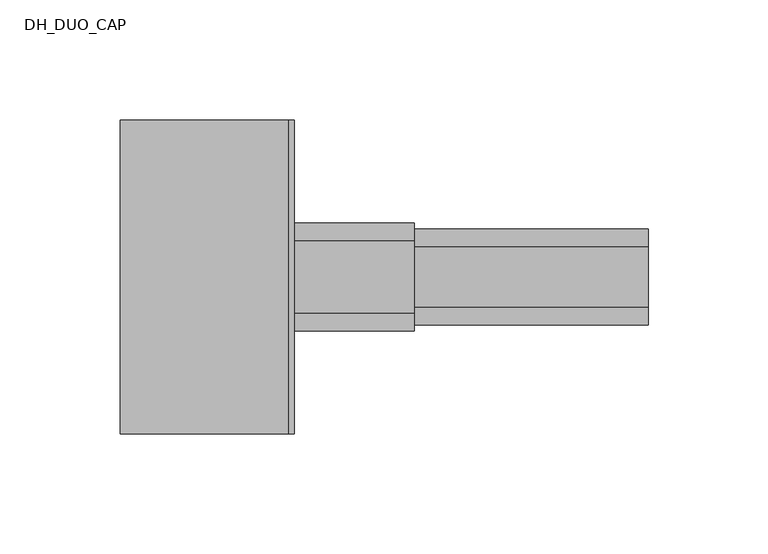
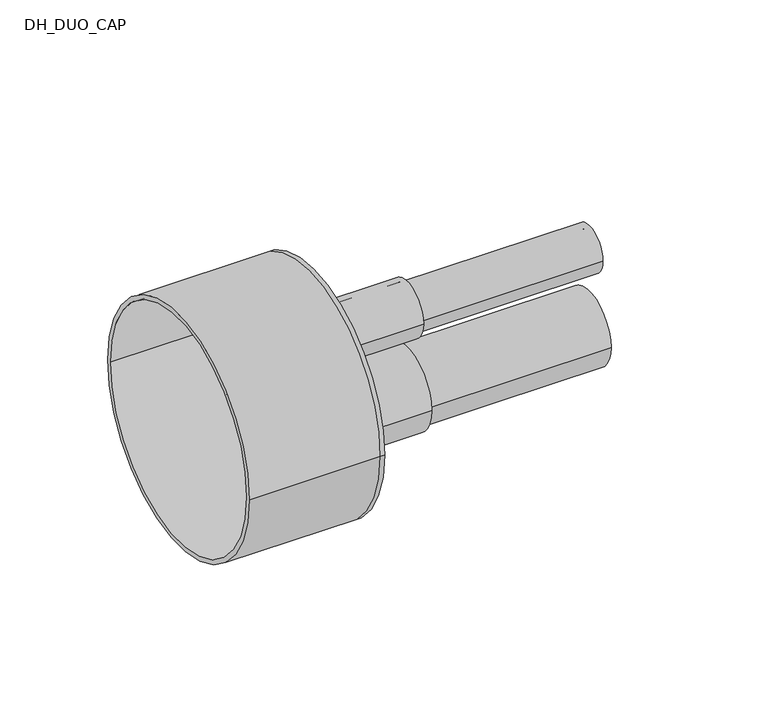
"""IFC4 building model written with IfcOpenShell, lengths in millimetres: pipe fitting geometry, DH_DUO_CAP : RAUTHERMEX DUO 7.4 DW - Rubber Cap."""

from ifc_helpers import new_model, si_unit, point, frame, frame_2d, origin, place, context, project, spatial, polyline, circle_curve, trimmed, segment, composite_curve, outline, extrude, source, transform, mapped, element, save
from ifc_brep_helpers import plane_surface, cylinder_surface, revolved_surface, advanced_brep


def dh_duo_cap_34895898(model_context):
    return source(origin(), model_context, "Body", "SolidModel", [
        extrude(outline(composite_curve([segment(trimmed(circle_curve(frame_2d((0.0, -18.5)), 20.0), [point((-20.0, -18.5))], [point((20.0, -18.5))], False, "CARTESIAN"), True, "CONTINUOUS"), segment(trimmed(circle_curve(frame_2d((0.0, -18.5)), 20.0), [point((20.0, -18.5))], [point((-20.0, -18.5))], False, "CARTESIAN"), True, "CONTINUOUS")], self_intersect=False), holes=[composite_curve([segment(trimmed(circle_curve(frame_2d((0.0, -18.5)), 14.5), [point((-14.5, -18.5))], [point((14.5, -18.5))], True, "CARTESIAN"), True, "CONTINUOUS"), segment(trimmed(circle_curve(frame_2d((0.0, -18.5)), 14.5), [point((14.5, -18.5))], [point((-14.5, -18.5))], True, "CARTESIAN"), True, "CONTINUOUS")], self_intersect=False)]), frame((0.0, 0.0, 0.0), z_axis=(1.0, 0.0, 0.0), x_axis=(0.0, 1.0, 0.0)), (0.0, 0.0, 1.0), 150.0),
        extrude(outline(composite_curve([segment(trimmed(circle_curve(frame_2d((0.0, 26.0)), 12.5), [point((-12.5, 26.0))], [point((12.5, 26.0))], False, "CARTESIAN"), True, "CONTINUOUS"), segment(trimmed(circle_curve(frame_2d((0.0, 26.0)), 12.5), [point((12.5, 26.0))], [point((-12.5, 26.0))], False, "CARTESIAN"), True, "CONTINUOUS")], self_intersect=False), holes=[composite_curve([segment(trimmed(circle_curve(frame_2d((0.0, 26.0)), 9.0), [point((-9.0, 26.0))], [point((9.0, 26.0))], True, "CARTESIAN"), True, "CONTINUOUS"), segment(trimmed(circle_curve(frame_2d((0.0, 26.0)), 9.0), [point((9.0, 26.0))], [point((-9.0, 26.0))], True, "CARTESIAN"), True, "CONTINUOUS")], self_intersect=False)]), frame((0.0, 0.0, 0.0), z_axis=(1.0, 0.0, 0.0), x_axis=(0.0, 1.0, 0.0)), (0.0, 0.0, 1.0), 150.0),
        advanced_brep(
        [(-70.0, -65.5, 0.0), (-70.0, 65.5, 0.0), (-70.0, -63.0, 0.0), (-70.0, 63.0, 0.0), (0.0, -63.0, 0.0), (0.0, 63.0, 0.0), (0.0, -65.5, 0.0), (0.0, 65.5, 0.0), (0.0, 12.5, 26.0), (0.0, -12.5, 26.0), (0.0, 20.0, -18.5), (0.0, -20.0, -18.5), (2.5, -65.5, 0.0), (2.5, 65.5, 0.0), (2.5, -12.5, 26.0), (2.5, 12.5, 26.0), (2.5, -20.0, -18.5), (2.5, 20.0, -18.5)],
        [
            (0, 1, circle_curve(frame((-70.0, 0.0, 0.0), z_axis=(-1.0, 0.0, 0.0), x_axis=(0.0, 1.0, 0.0)), 65.5)),
            (1, 0, circle_curve(frame((-70.0, 0.0, 0.0), z_axis=(-1.0, 0.0, 0.0), x_axis=(0.0, 1.0, 0.0)), 65.5)),
            (2, 3, circle_curve(frame((-70.0, 0.0, 0.0), z_axis=(1.0, 0.0, 0.0), x_axis=(0.0, 1.0, 0.0)), 63.0)),
            (3, 2, circle_curve(frame((-70.0, 0.0, 0.0), z_axis=(1.0, 0.0, 0.0), x_axis=(0.0, 1.0, 0.0)), 63.0)),
            (2, 4),
            (4, 5, circle_curve(frame((0.0, 0.0, 0.0), z_axis=(1.0, 0.0, 0.0), x_axis=(0.0, 1.0, 0.0)), 63.0)),
            (5, 3),
            (5, 4, circle_curve(frame((0.0, 0.0, 0.0), z_axis=(1.0, 0.0, 0.0), x_axis=(0.0, 1.0, 0.0)), 63.0)),
            (0, 6),
            (6, 7, circle_curve(frame((0.0, 0.0, 0.0), z_axis=(-1.0, 0.0, 0.0), x_axis=(0.0, 1.0, 0.0)), 65.5)),
            (7, 1),
            (7, 6, circle_curve(frame((0.0, 0.0, 0.0), z_axis=(-1.0, 0.0, 0.0), x_axis=(0.0, 1.0, 0.0)), 65.5)),
            (8, 9, circle_curve(frame((0.0, 0.0, 26.0), z_axis=(1.0, 0.0, 0.0), x_axis=(0.0, 1.0, 0.0)), 12.5)),
            (9, 8, circle_curve(frame((0.0, 0.0, 26.0), z_axis=(1.0, 0.0, 0.0), x_axis=(0.0, 1.0, 0.0)), 12.5)),
            (10, 11, circle_curve(frame((0.0, 0.0, -18.5), z_axis=(1.0, 0.0, 0.0), x_axis=(0.0, 1.0, 0.0)), 20.0)),
            (11, 10, circle_curve(frame((0.0, 0.0, -18.5), z_axis=(1.0, 0.0, 0.0), x_axis=(0.0, 1.0, 0.0)), 20.0)),
            (12, 13, circle_curve(frame((2.5, 0.0, 0.0), z_axis=(1.0, 0.0, 0.0), x_axis=(0.0, 1.0, 0.0)), 65.5)),
            (13, 12, circle_curve(frame((2.5, 0.0, 0.0), z_axis=(1.0, 0.0, 0.0), x_axis=(0.0, 1.0, 0.0)), 65.5)),
            (14, 15, circle_curve(frame((2.5, 0.0, 26.0), z_axis=(-1.0, 0.0, 0.0), x_axis=(0.0, 1.0, 0.0)), 12.5)),
            (15, 14, circle_curve(frame((2.5, 0.0, 26.0), z_axis=(-1.0, 0.0, 0.0), x_axis=(0.0, 1.0, 0.0)), 12.5)),
            (16, 17, circle_curve(frame((2.5, 0.0, -18.5), z_axis=(-1.0, 0.0, 0.0), x_axis=(0.0, 1.0, 0.0)), 20.0)),
            (17, 16, circle_curve(frame((2.5, 0.0, -18.5), z_axis=(-1.0, 0.0, 0.0), x_axis=(0.0, 1.0, 0.0)), 20.0)),
            (13, 7),
            (6, 12),
            (8, 15),
            (14, 9),
            (10, 17),
            (16, 11),
        ],
        [
            plane_surface(frame((-70.0, 0.0, 0.0), z_axis=(-1.0, 0.0, 0.0), x_axis=(0.0, 0.0, 1.0))),
            revolved_surface(polyline([(0.0, 63.0, 0.0), (-70.0, 63.0, 0.0)]), (-70.0, 0.0, 0.0), (1.0, 0.0, 0.0)),
            cylinder_surface(frame((-70.0, 0.0, 0.0), z_axis=(-1.0, 0.0, 0.0), x_axis=(0.0, 1.0, 0.0)), 65.5),
            plane_surface(frame((0.0, 0.0, 0.0), z_axis=(-1.0, 0.0, 0.0), x_axis=(0.0, 0.0, 1.0))),
            plane_surface(frame((2.5, 0.0, 0.0), z_axis=(1.0, 0.0, 0.0), x_axis=(0.0, 0.0, 1.0))),
            cylinder_surface(frame((0.0, 0.0, 0.0), z_axis=(-1.0, 0.0, 0.0), x_axis=(0.0, 1.0, 0.0)), 65.5),
            revolved_surface(polyline([(0.0, 12.5, 26.0), (2.5, 12.5, 26.0)]), (0.0, 0.0, 26.0), (-1.0, 0.0, 0.0)),
            revolved_surface(polyline([(0.0, 20.0, -18.5), (2.5, 20.0, -18.5)]), (0.0, 0.0, -18.5), (-1.0, 0.0, 0.0)),
        ],
        [
            (0, [[1, 2], [3, 4]]),
            (1, [[-3, 5, 6, 7]]),
            (1, [[-4, -7, 8, -5]]),
            (2, [[-1, 9, 10, 11]]),
            (2, [[-2, -11, 12, -9]]),
            (3, [[-6, -8], [13, 14], [15, 16]]),
            (4, [[17, 18], [19, 20], [21, 22]]),
            (5, [[-18, 23, -10, 24]]),
            (5, [[-17, -24, -12, -23]]),
            (6, [[25, -19, 26, -13]]),
            (6, [[-25, -14, -26, -20]]),
            (7, [[27, -21, 28, -15]]),
            (7, [[-27, -16, -28, -22]]),
        ],
    ),
        extrude(outline(composite_curve([segment(trimmed(circle_curve(frame_2d((0.0, -18.5)), 22.5), [point((-22.5, -18.5))], [point((22.5, -18.5))], False, "CARTESIAN"), True, "CONTINUOUS"), segment(trimmed(circle_curve(frame_2d((0.0, -18.5)), 22.5), [point((22.5, -18.5))], [point((-22.5, -18.5))], False, "CARTESIAN"), True, "CONTINUOUS")], self_intersect=False), holes=[composite_curve([segment(trimmed(circle_curve(frame_2d((0.0, -18.5)), 20.0), [point((-20.0, -18.5))], [point((20.0, -18.5))], True, "CARTESIAN"), True, "CONTINUOUS"), segment(trimmed(circle_curve(frame_2d((0.0, -18.5)), 20.0), [point((20.0, -18.5))], [point((-20.0, -18.5))], True, "CARTESIAN"), True, "CONTINUOUS")], self_intersect=False)]), frame((2.5, 0.0, 0.0), z_axis=(1.0, 0.0, 0.0), x_axis=(0.0, 1.0, 0.0)), (0.0, 0.0, 1.0), 50.0),
        extrude(outline(composite_curve([segment(trimmed(circle_curve(frame_2d((0.0, 26.0)), 15.0), [point((-15.0, 26.0))], [point((15.0, 26.0))], False, "CARTESIAN"), True, "CONTINUOUS"), segment(trimmed(circle_curve(frame_2d((0.0, 26.0)), 15.0), [point((15.0, 26.0))], [point((-15.0, 26.0))], False, "CARTESIAN"), True, "CONTINUOUS")], self_intersect=False), holes=[composite_curve([segment(trimmed(circle_curve(frame_2d((0.0, 26.0)), 12.5), [point((-12.5, 26.0))], [point((12.5, 26.0))], True, "CARTESIAN"), True, "CONTINUOUS"), segment(trimmed(circle_curve(frame_2d((0.0, 26.0)), 12.5), [point((12.5, 26.0))], [point((-12.5, 26.0))], True, "CARTESIAN"), True, "CONTINUOUS")], self_intersect=False)]), frame((2.5, 0.0, 0.0), z_axis=(1.0, 0.0, 0.0), x_axis=(0.0, 1.0, 0.0)), (0.0, 0.0, 1.0), 50.0),
    ])


if __name__ == "__main__":
    model = new_model("IFC4")
    model_context = context("Model", 3, world=origin())
    ifc_project = project(units=[si_unit("LENGTHUNIT", "METRE", prefix="MILLI")], contexts=[model_context])
    site = spatial("IfcSite", under=ifc_project)
    building = spatial("IfcBuilding", under=site)
    placement = place(None, origin())
    dh_duo_cap_shape = dh_duo_cap_34895898(model_context)
    element("IfcPipeFitting", 1, ObjectType="DH_DUO_CAP : RAUTHERMEX DUO 7.4 DW - Rubber Cap", at=placement, inside=building, context=model_context, shape_type="MappedRepresentation", body=[
        mapped(dh_duo_cap_shape, transform((0.0, 0.0, 0.0), x_axis=(1.0, 0.0, 0.0), y_axis=(0.0, 1.0, 0.0), z_axis=(0.0, 0.0, 1.0))),
    ])
    save(model, "model.ifc")
